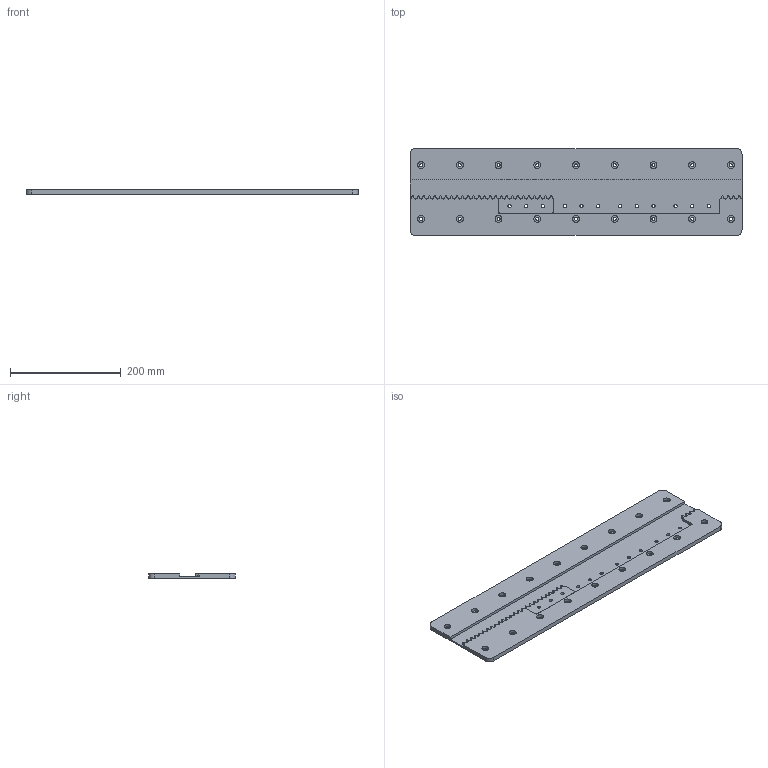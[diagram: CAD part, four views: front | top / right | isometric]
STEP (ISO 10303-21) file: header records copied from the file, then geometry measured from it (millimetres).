
FILE_DESCRIPTION(/* description */ (''),/* implementation_level */ '2;1');
FILE_NAME(/* name */ 'C:/Users/jakob/Documents/GitHub/fabricatable-machines/wiki-media/fab14_workshop/square_rail_for_rack_pieces.step',/* time_stamp */ '2018-07-21T18:03:54+02:00',/* author */ ('jaknil'),/* organization */ (''),/* preprocessor_version */ 'ST-DEVELOPER v17',/* originating_system */ 'Autodesk Translation Framework v7.1.0.215',/* authorisation */ '');
FILE_SCHEMA (('AUTOMOTIVE_DESIGN { 1 0 10303 214 3 1 1 }'));
Length unit declared in the file: millimetre
Products named in the file (4): Test axis Fusion360 6mm Axis with CAM v6 v16-save; Rack; main; piece
Assembly tree (3 placements, depth 3):
  Test axis Fusion360 6mm Axis with CAM v6 v16-save
    Rack
      main
      piece
Bounding box: 600 x 157 x 8 mm (x, y, z)
Volume: 601171.9 mm3; surface area: 217899.9 mm2
Topology: 2 solids, 2 shells, 215 faces, 579 edges, 386 vertices
Faces by surface type: cylinder 90, bspline 90, plane 35
Full cylindrical faces by diameter (mm): 5.5 x18, 6 x15, 12.5 x18
Entity records: 10521 total; most frequent: CARTESIAN_POINT 5441, ORIENTED_EDGE 1158, DIRECTION 783, EDGE_CURVE 579, VERTEX_POINT 386, AXIS2_PLACEMENT_3D 312, EDGE_LOOP 299, B_SPLINE_CURVE_WITH_KNOTS 240
